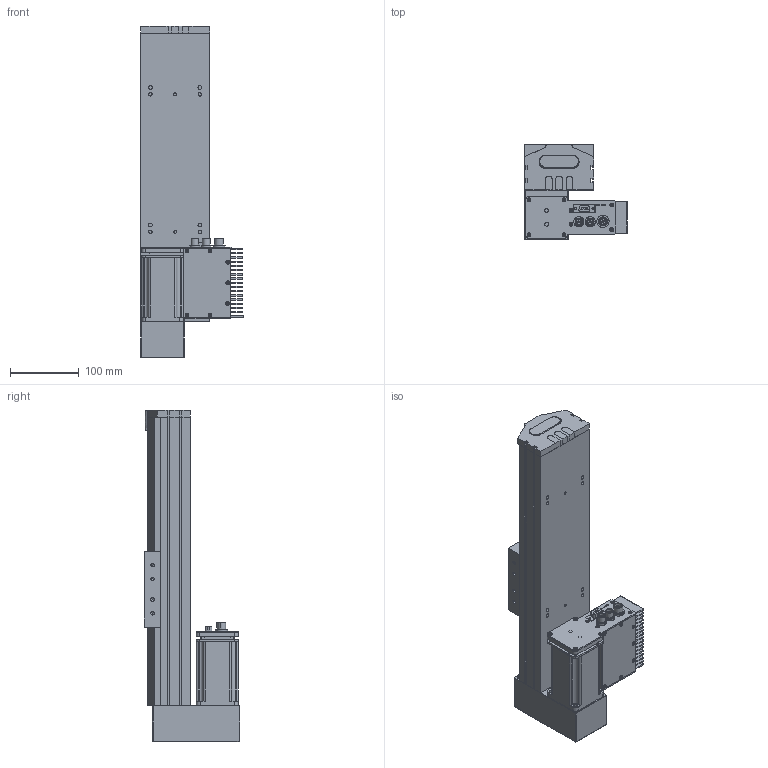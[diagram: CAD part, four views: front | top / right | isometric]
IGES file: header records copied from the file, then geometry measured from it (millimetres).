
Start section: SolidWorks IGES file using analytic representation for surfaces
Global section: file name: C:\Documents and Settings\1EDPI\Mes documents\yanize\S 10 TSH BM\S 10  TSH BM S200 .IGS; native system: SolidWorks 2010; preprocessor: SolidWorks 2010; author: 1EDPI; date: 120906.142641; units: millimetre
Bounding box: 149.38 x 138.75 x 482 mm (x, y, z)
Surface area: 525513.6 mm2 (no closed solid volume)
Topology: 0 solids, 0 shells, 1954 faces, 25900 edges, 25868 vertices
Faces by surface type: revolution 1031, bspline 923
